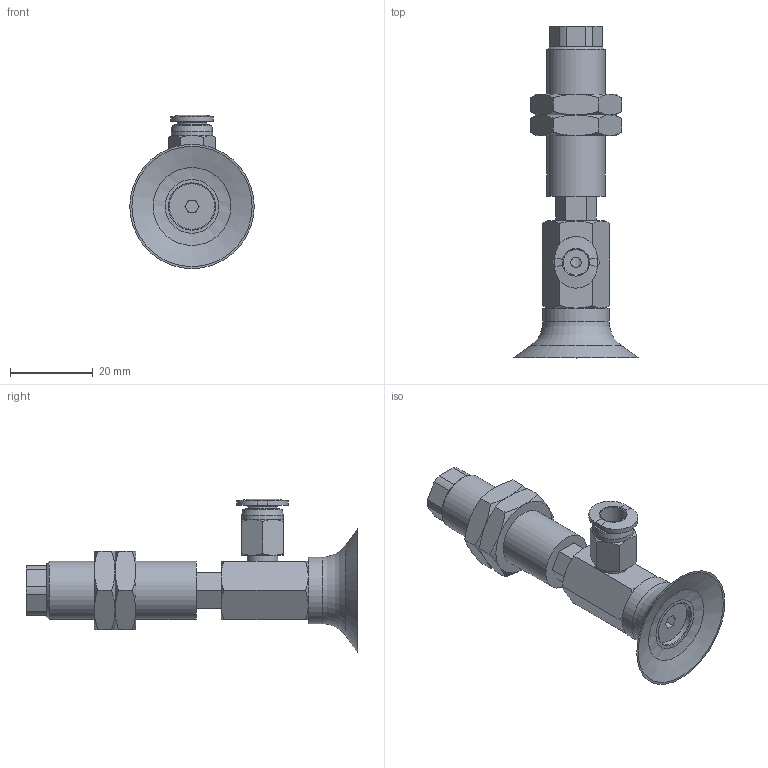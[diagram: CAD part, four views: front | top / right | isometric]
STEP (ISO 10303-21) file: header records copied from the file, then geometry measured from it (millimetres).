
FILE_DESCRIPTION(('STEP AP203'),'1');
FILE_NAME('-O.stp','2025-04-10T07:44:00',(' '),(' '),'Spatial InterOp 3D',' ',' ');
FILE_SCHEMA(('CONFIG_CONTROL_DESIGN'));
Length unit declared in the file: millimetre
Products named in the file (8): BNABPFYH-30-6-※-O; TN-PF-30-M6-NAPF; CONNECTOR-H-30-6; Nut-30-6-h; NAPFTH-30-6-FBODY; NAPFTH-30-6-MBODY; BPFG-30-※; PC-C_06-M5
Assembly tree (8 placements, depth 2):
  BNABPFYH-30-6-※-O
    TN-PF-30-M6-NAPF
    CONNECTOR-H-30-6
    Nut-30-6-h  x2
    NAPFTH-30-6-FBODY
    NAPFTH-30-6-MBODY
    BPFG-30-※
    PC-C_06-M5
Bounding box: 30 x 80 x 36.98 mm (x, y, z)
Volume: 13970 mm3; surface area: 12070.6 mm2
Topology: 7 solids, 10 shells, 206 faces, 436 edges, 265 vertices
Faces by surface type: plane 95, cone 67, cylinder 29, torus 7, bspline 5, revolution 3
Full cylindrical faces by diameter (mm): 3 x2, 4 x2, 4.134 x2, 4.917 x1, 5 x2, 6 x2, 7 x1, 7.4 x1, 8.2 x1, 10 x1, 11 x2, 12.917 x2, 14 x1, 16 x1
Entity records: 5575 total; most frequent: CARTESIAN_POINT 1533, DIRECTION 751, ORIENTED_EDGE 674, EDGE_CURVE 339, AXIS2_PLACEMENT_3D 307, EDGE_LOOP 258, VERTEX_POINT 233, FACE_OUTER_BOUND 151
